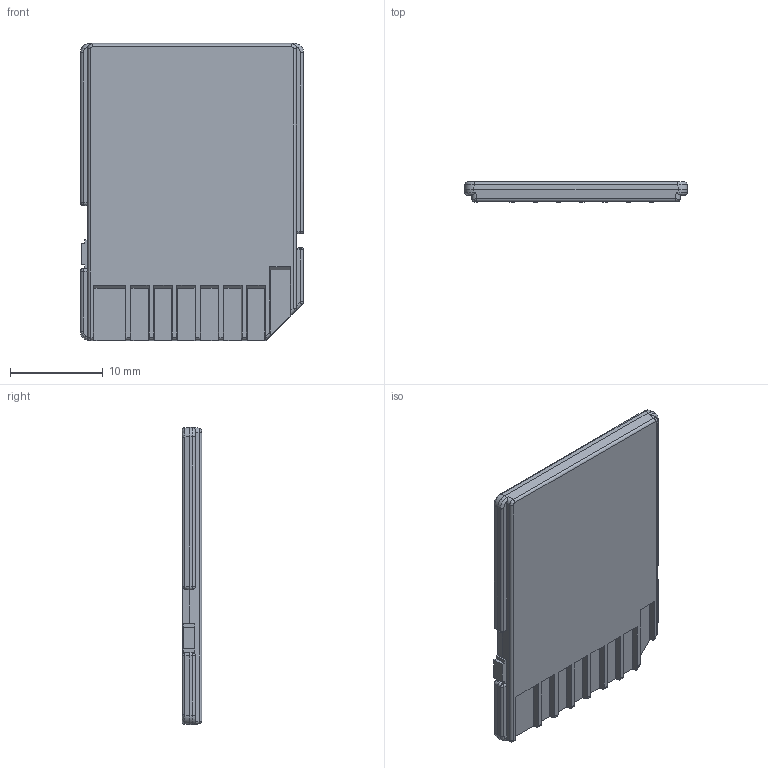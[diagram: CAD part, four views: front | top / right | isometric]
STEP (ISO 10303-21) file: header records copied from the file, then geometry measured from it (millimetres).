
FILE_DESCRIPTION((''),'2;1');
FILE_NAME('00_ASSY_ALL_SD-CARD_ASM','2019-06-05T',('otto_lian'),(''),'PRO/ENGINEER BY PARAMETRIC TECHNOLOGY CORPORATION, 2011180','PRO/ENGINEER BY PARAMETRIC TECHNOLOGY CORPORATION, 2011180','');
FILE_SCHEMA(('CONFIG_CONTROL_DESIGN'));
Length unit declared in the file: millimetre
Products named in the file (4): BTM_CASE_SD-CARD; TOP_CASE_SD-CARD; SW_SD-CARD; 00_ASSY_ALL_SD-CARD_ASM
Assembly tree (3 placements, depth 2):
  00_ASSY_ALL_SD-CARD_ASM
    BTM_CASE_SD-CARD
    TOP_CASE_SD-CARD
    SW_SD-CARD
Bounding box: 24 x 2.1 x 32 mm (x, y, z)
Volume: 1419.3 mm3; surface area: 3278.8 mm2
Topology: 3 solids, 3 shells, 175 faces, 483 edges, 316 vertices
Faces by surface type: plane 84, cylinder 63, bspline 20, sphere 8
Entity records: 6543 total; most frequent: CARTESIAN_POINT 2234, ORIENTED_EDGE 892, DIRECTION 786, EDGE_CURVE 446, VECTOR 320, LINE 320, VERTEX_POINT 279, AXIS2_PLACEMENT_3D 233
